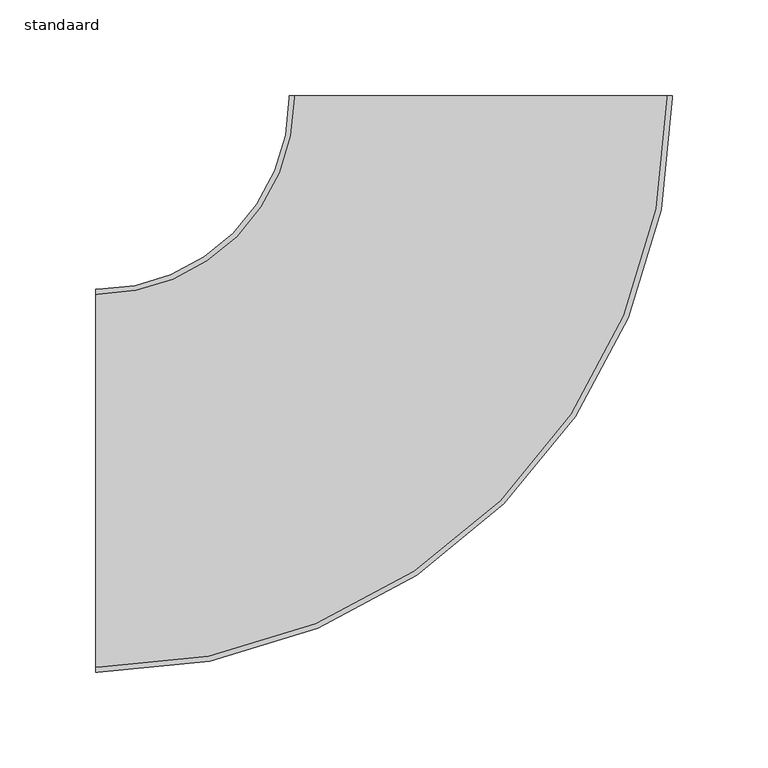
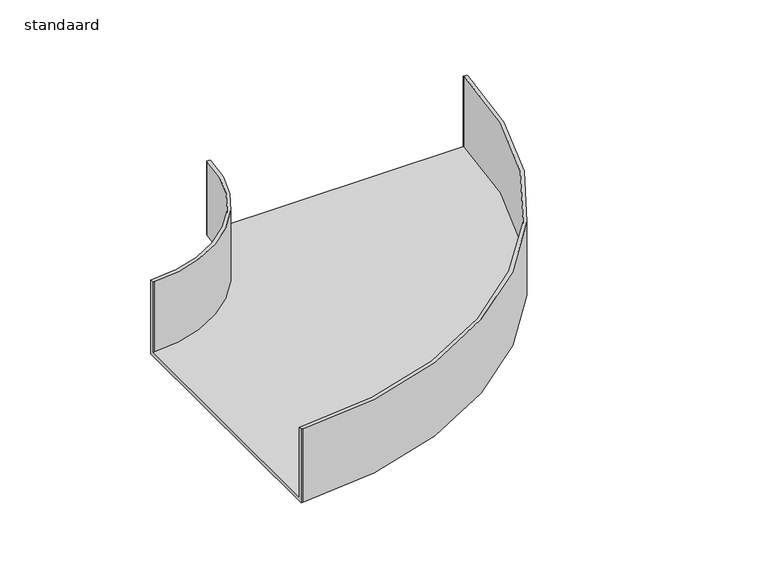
"""IFC4 building model written with IfcOpenShell, lengths in millimetres: cable carrier fitting geometry, AI_Raccord cdc_Coude horizontal rayon court : standaard."""

import ifcopenshell
import ifcopenshell.guid

model = None  # the IFC model being written
_history = None  # IfcOwnerHistory: only IFC2X3 demands one
_inside = {}  # id of a spatial element -> (the spatial element, [elements in it])
_under = {}  # id of a project, library or spatial element -> (it, [spatial elements below it])
_declared = {}  # id of a project -> (the project, [libraries it declares])
_typed = {}  # id of a type object -> (the type object, [elements of that type])
_made_of = {}  # id of a material, layer set ... -> (it, [elements and type objects made of it])


def new_model(schema):
    """Start an empty IFC model of exactly this schema.

    Asked for "IFC4X3", IfcOpenShell would pick the latest addendum, in which some entities
    have other attributes; the version numbers below select the first issue.
    IFC2X3 requires an IfcOwnerHistory on every rooted entity: one is made here for all.
    """
    global model, _history
    if schema == "IFC4X3":
        model = ifcopenshell.file(schema_version=(4, 3, 0, 0))
    else:
        model = ifcopenshell.file(schema=schema)
    _inside.clear()
    _under.clear()
    _declared.clear()
    _typed.clear()
    _made_of.clear()
    _history = None
    if model.schema == "IFC2X3":
        org = make("IfcOrganization", Name="unknown")
        user = make(
            "IfcPersonAndOrganization",
            ThePerson=make("IfcPerson", FamilyName="unknown"),
            TheOrganization=org,
        )
        app = make(
            "IfcApplication",
            ApplicationDeveloper=org,
            Version="unknown",
            ApplicationFullName="unknown",
            ApplicationIdentifier="unknown",
        )
        _history = make(
            "IfcOwnerHistory",
            OwningUser=user,
            OwningApplication=app,
            ChangeAction="ADDED",
            CreationDate=0,
        )
    return model


def make(cls, **values):
    """One entity of the class cls with the attributes given. An attribute that is None is left unset."""
    return model.create_entity(
        cls, **{name: value for name, value in values.items() if value is not None}
    )


def rooted(cls, **values):
    """An entity with a GlobalId (a new one), such as an element, a storey or a relation."""
    return make(cls, GlobalId=ifcopenshell.guid.new(), OwnerHistory=_history, **values)


def si_unit(unit_type, name, prefix=None):
    """IfcSIUnit, for example si_unit("LENGTHUNIT", "METRE", prefix="MILLI")."""
    return make("IfcSIUnit", UnitType=unit_type, Prefix=prefix, Name=name)


def assignment(units):
    """IfcUnitAssignment: the units of a project."""
    return None if units is None else make("IfcUnitAssignment", Units=units)


def point(xyz):
    """IfcCartesianPoint."""
    return None if xyz is None else make("IfcCartesianPoint", Coordinates=xyz)


def direction(xyz):
    """IfcDirection."""
    return None if xyz is None else make("IfcDirection", DirectionRatios=xyz)


def frame(location, z_axis=None, x_axis=None):
    """IfcAxis2Placement3D, a coordinate frame: its origin and axes. An axis left out is left unset."""
    return make(
        "IfcAxis2Placement3D",
        Location=point(location),
        Axis=direction(z_axis),
        RefDirection=direction(x_axis),
    )


def origin():
    """The frame at (0, 0, 0) with its axes left unset."""
    return frame((0.0, 0.0, 0.0))


def place(relative_to, where):
    """IfcLocalPlacement: puts the frame where relative to a parent placement (None: the world)."""
    return make(
        "IfcLocalPlacement", PlacementRelTo=relative_to, RelativePlacement=where
    )


def context(
    kind, dimensions, precision=None, world=None, true_north=None, identifier=None
):
    """IfcGeometricRepresentationContext, for example the 3D "Model" context."""
    return make(
        "IfcGeometricRepresentationContext",
        ContextIdentifier=identifier,
        ContextType=kind,
        CoordinateSpaceDimension=dimensions,
        Precision=precision,
        WorldCoordinateSystem=world,
        TrueNorth=true_north,
    )


def project(units=None, contexts=None):
    """IfcProject with its units and contexts."""
    return rooted(
        "IfcProject",
        Name="project",
        RepresentationContexts=contexts,
        UnitsInContext=assignment(units),
    )


def spatial(cls, under=None, at=None, **own):
    """A site, building, storey or space (cls), placed at a placement, below another one or the project."""
    s = rooted(cls, ObjectPlacement=at, **own)
    if under is not None:
        _under.setdefault(under.id(), (under, []))[1].append(s)
    return s


def polyline(points):
    """IfcPolyline through the points."""
    return make("IfcPolyline", Points=[point(p) for p in points])


def circle_curve(where, radius):
    """IfcCircle in the frame where."""
    return make("IfcCircle", Position=where, Radius=radius)


def shape(context_of_items, identifier, shape_type, items):
    """IfcShapeRepresentation: the items that make up one representation, for example the "Body"."""
    return make(
        "IfcShapeRepresentation",
        ContextOfItems=context_of_items,
        RepresentationIdentifier=identifier,
        RepresentationType=shape_type,
        Items=items,
    )


def source(mapping_origin, context_of_items, identifier, shape_type, items):
    """IfcRepresentationMap: a shape defined once, which mapped items show again and again."""
    return make(
        "IfcRepresentationMap",
        MappingOrigin=mapping_origin,
        MappedRepresentation=shape(context_of_items, identifier, shape_type, items),
    )


def transform(
    local_origin,
    x_axis=None,
    y_axis=None,
    z_axis=None,
    scale=None,
    scale2=None,
    scale3=None,
    uniform=True,
):
    """IfcCartesianTransformationOperator3D, or its non-uniform kind. x_axis, y_axis, z_axis: its Axis1, 2, 3."""
    if uniform:
        return make(
            "IfcCartesianTransformationOperator3D",
            Axis1=direction(x_axis),
            Axis2=direction(y_axis),
            LocalOrigin=point(local_origin),
            Scale=scale,
            Axis3=direction(z_axis),
        )
    return make(
        "IfcCartesianTransformationOperator3DnonUniform",
        Axis1=direction(x_axis),
        Axis2=direction(y_axis),
        LocalOrigin=point(local_origin),
        Scale=scale,
        Axis3=direction(z_axis),
        Scale2=scale2,
        Scale3=scale3,
    )


def mapped(mapping_source, mapping_target):
    """IfcMappedItem: shows the shape of a source again, moved by a transform."""
    return make(
        "IfcMappedItem", MappingSource=mapping_source, MappingTarget=mapping_target
    )


def made_of(thing, what):
    """Note that an element or type object is made of a material, layer set ...; save() writes the relation."""
    if what is not None:
        _made_of.setdefault(what.id(), (what, []))[1].append(thing)
    return thing


def element(
    cls,
    number,
    at=None,
    inside=None,
    cuts=None,
    type_object=None,
    material=None,
    context=None,
    identifier="Body",
    shape_type=None,
    held_by="IfcProductDefinitionShape",
    body=None,
    shapes=None,
    **own,
):
    """One element of the class cls, such as IfcWall. Its Tag is "e" and its number.

    at: its placement. inside: the storey or other place that contains it. cuts: it is an
    opening in that element (IfcRelVoidsElement). A single representation is given by context,
    identifier, shape_type and body (its items); several are given by shapes. held_by: the class
    of the entity that holds the representations. save() writes the other relations.
    """
    e = rooted(cls, Tag="e%d" % number, ObjectPlacement=at, **own)
    if body is not None:
        shapes = [shape(context, identifier, shape_type, body)]
    if shapes is not None:
        e.Representation = make(held_by, Representations=shapes)
    if inside is not None:
        _inside.setdefault(inside.id(), (inside, []))[1].append(e)
    if cuts is not None:
        rooted(
            "IfcRelVoidsElement", RelatingBuildingElement=cuts, RelatedOpeningElement=e
        )
    if type_object is not None:
        _typed.setdefault(type_object.id(), (type_object, []))[1].append(e)
    return made_of(e, material)


def aggregate(whole, parts):
    """IfcRelAggregates: a whole, such as a stair, and the parts it consists of."""
    return rooted("IfcRelAggregates", RelatingObject=whole, RelatedObjects=parts)


def save(model, path):
    """Write the relations noted so far, then the file.

    IfcRelAggregates (storeys below a building ...), IfcRelContainedInSpatialStructure (elements
    in a storey), IfcRelDefinesByType, IfcRelAssociatesMaterial and IfcRelDeclares: one each for
    every whole, place, type object, material and project.
    """
    for whole, parts in _under.values():
        aggregate(whole, parts)
    for where, things in _inside.values():
        rooted(
            "IfcRelContainedInSpatialStructure",
            RelatedElements=things,
            RelatingStructure=where,
        )
    for kind, things in _typed.values():
        rooted("IfcRelDefinesByType", RelatedObjects=things, RelatingType=kind)
    for what, things in _made_of.values():
        rooted("IfcRelAssociatesMaterial", RelatedObjects=things, RelatingMaterial=what)
    for by, libraries in _declared.values():
        rooted("IfcRelDeclares", RelatingContext=by, RelatedDefinitions=libraries)
    model.write(path)


def plane_surface(at):
    """IfcPlane: the flat surface through the origin of the frame at, square to its z axis."""
    return make("IfcPlane", Position=at)


def cylinder_surface(at, radius):
    """IfcCylindricalSurface: all points at the distance radius from the z axis of the frame at."""
    return make("IfcCylindricalSurface", Position=at, Radius=radius)


def revolved_surface(curve, axis_point, axis_direction):
    """IfcSurfaceOfRevolution: the curve turned about the line through axis_point along axis_direction."""
    return make(
        "IfcSurfaceOfRevolution",
        SweptCurve=make("IfcArbitraryOpenProfileDef", ProfileType="CURVE", Curve=curve),
        AxisPosition=make("IfcAxis1Placement", Location=point(axis_point), Axis=direction(axis_direction)),
    )


def advanced_brep(points, edges, surfaces, faces):
    """IfcAdvancedBrep: a solid bounded by faces that lie on surfaces and meet in shared edges.

    An edge is (start, end): straight between two places in points (the first is 0);
    or (start, end, curve); or (start, end, curve, False) where it runs against its curve.
    A face is (place in surfaces, loops), or (place, loops, False) where it looks against
    its surface's normal. A loop lists edges by number (the first is 1), with a minus sign
    where the edge is run from its end to its start. The first loop is the outer one.
    """
    corners = [point(p) for p in points]
    vertices = [make("IfcVertexPoint", VertexGeometry=c) for c in corners]
    made = []
    for start, end, *more in edges:
        made.append(
            make(
                "IfcEdgeCurve",
                EdgeStart=vertices[start],
                EdgeEnd=vertices[end],
                EdgeGeometry=more[0] if more else make("IfcPolyline", Points=[corners[start], corners[end]]),
                SameSense=more[1] if len(more) > 1 else True,
            )
        )
    hull = []
    for where, loops, *sense in faces:
        bounds = []
        for j, loop in enumerate(loops):
            ring = [make("IfcOrientedEdge", EdgeElement=made[abs(k) - 1], Orientation=k > 0) for k in loop]
            bounds.append(
                make(
                    "IfcFaceOuterBound" if j == 0 else "IfcFaceBound",
                    Bound=make("IfcEdgeLoop", EdgeList=ring),
                    Orientation=True,
                )
            )
        hull.append(make("IfcAdvancedFace", Bounds=bounds, FaceSurface=surfaces[where], SameSense=sense[0] if sense else True))
    return make("IfcAdvancedBrep", Outer=make("IfcClosedShell", CfsFaces=hull))


def standaard_8c2b1447(model_context):
    return source(origin(), model_context, "Body", "AdvancedBrep", [
        advanced_brep(
        [(-201.0, -100.0, -30.0), (-201.0, -100.0, 30.0), (-201.0, -97.46, 30.0), (-201.0, -97.46, -27.46), (-201.0, 97.46, -27.46), (-201.0, 97.46, 30.0), (-201.0, 100.0, 30.0), (-201.0, 100.0, -30.0), (100.0, 201.0, -30.0), (-100.0, 201.0, -30.0), (-100.0, 201.0, 30.0), (-97.46, 201.0, 30.0), (-97.46, 201.0, -27.46), (97.46, 201.0, -27.46), (97.46, 201.0, 30.0), (100.0, 201.0, 30.0), (-200.0, -100.0, -30.0), (-200.0, -100.0, 30.0), (100.0, 200.0, 30.0), (97.46, 200.0, 30.0), (-200.0, -97.46, 30.0), (-200.0, -97.46, -27.46), (97.46, 200.0, -27.46), (-97.46, 200.0, -27.46), (-200.0, 97.46, -27.46), (-200.0, 97.46, 30.0), (-97.46, 200.0, 30.0), (-100.0, 200.0, 30.0), (-200.0, 100.0, 30.0), (-200.0, 100.0, -30.0), (-100.0, 200.0, -30.0), (100.0, 200.0, -30.0)],
        [
            (0, 1),
            (1, 2),
            (2, 3),
            (3, 4),
            (4, 5),
            (5, 6),
            (6, 7),
            (7, 0),
            (8, 9),
            (9, 10),
            (10, 11),
            (11, 12),
            (12, 13),
            (13, 14),
            (14, 15),
            (15, 8),
            (0, 16),
            (16, 17),
            (17, 1),
            (17, 18, circle_curve(frame((-200.0, 200.0, 30.0), z_axis=(0.0, 0.0, 1.0), x_axis=(0.0, -1.0, 0.0)), 300.0)),
            (18, 15),
            (14, 19),
            (19, 20, circle_curve(frame((-200.0, 200.0, 30.0), z_axis=(0.0, 0.0, -1.0), x_axis=(0.0, -1.0, 0.0)), 297.46)),
            (20, 2),
            (20, 21),
            (21, 3),
            (21, 22, circle_curve(frame((-200.0, 200.0, -27.46), z_axis=(0.0, 0.0, 1.0), x_axis=(0.0, -1.0, 0.0)), 297.46)),
            (22, 13),
            (12, 23),
            (23, 24, circle_curve(frame((-200.0, 200.0, -27.46), z_axis=(0.0, 0.0, -1.0), x_axis=(0.0, -1.0, 0.0)), 102.54)),
            (24, 4),
            (24, 25),
            (25, 5),
            (25, 26, circle_curve(frame((-200.0, 200.0, 30.0), z_axis=(0.0, 0.0, 1.0), x_axis=(0.0, -1.0, 0.0)), 102.54)),
            (26, 11),
            (10, 27),
            (27, 28, circle_curve(frame((-200.0, 200.0, 30.0), z_axis=(0.0, 0.0, -1.0), x_axis=(0.0, -1.0, 0.0)), 100.0)),
            (28, 6),
            (28, 29),
            (29, 7),
            (29, 30, circle_curve(frame((-200.0, 200.0, -30.0), z_axis=(0.0, 0.0, 1.0), x_axis=(0.0, -1.0, 0.0)), 100.0)),
            (30, 9),
            (8, 31),
            (31, 16, circle_curve(frame((-200.0, 200.0, -30.0), z_axis=(0.0, 0.0, -1.0), x_axis=(0.0, -1.0, 0.0)), 300.0)),
            (31, 18),
            (19, 22),
            (23, 26),
            (27, 30),
        ],
        [
            plane_surface(frame((-201.0, 0.0, 0.0), z_axis=(-1.0, -4.894051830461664e-12, 0.0), x_axis=(0.0, 0.0, 1.0))),
            plane_surface(frame((0.0, 201.0, 0.0), z_axis=(0.0, 1.0, 0.0), x_axis=(0.0, 0.0, 1.0))),
            plane_surface(frame((-201.0, -100.0, -30.0), z_axis=(4.889821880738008e-12, -1.0, 0.0), x_axis=(1.0, 4.889821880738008e-12, 0.0))),
            plane_surface(frame((-201.0, -100.0, 30.0), z_axis=(0.0, 0.0, 1.0), x_axis=(1.0, 4.889821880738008e-12, 0.0))),
            plane_surface(frame((-201.0, -97.46, 30.0), z_axis=(-4.906741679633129e-12, 1.0, 0.0), x_axis=(1.0, 4.906741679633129e-12, 0.0))),
            plane_surface(frame((-201.0, -97.46, -27.46), z_axis=(0.0, 0.0, 1.0), x_axis=(1.0, 4.889821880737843e-12, 0.0))),
            plane_surface(frame((-201.0, 97.46, -27.46), z_axis=(4.889821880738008e-12, -1.0, 0.0), x_axis=(1.0, 4.889821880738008e-12, 0.0))),
            plane_surface(frame((-201.0, 97.46, 30.0), z_axis=(0.0, 0.0, 1.0), x_axis=(1.0, 4.889821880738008e-12, 0.0))),
            plane_surface(frame((-201.0, 100.0, 30.0), z_axis=(-4.889821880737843e-12, 1.0, 0.0), x_axis=(1.0, 4.889821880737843e-12, 0.0))),
            plane_surface(frame((-201.0, 100.0, -30.0), z_axis=(0.0, 0.0, -1.0), x_axis=(1.0, 4.889821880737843e-12, 0.0))),
            cylinder_surface(frame((-200.0, 200.0, 0.0), z_axis=(0.0, 0.0, 1.0), x_axis=(0.0, -1.0, 0.0)), 300.0),
            revolved_surface(polyline([(-200.0, -97.45999999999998, 30.0), (-200.0, -97.45999999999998, -27.46)]), (-200.0, 200.0, 0.0), (0.0, 0.0, 1.0)),
            cylinder_surface(frame((-200.0, 200.0, 0.0), z_axis=(0.0, 0.0, 1.0), x_axis=(0.0, -1.0, 0.0)), 102.54),
            revolved_surface(polyline([(-200.0, 100.0, 30.0), (-200.0, 100.0, -30.0)]), (-200.0, 200.0, 0.0), (0.0, 0.0, 1.0)),
            plane_surface(frame((100.0, 200.0, -30.0), z_axis=(1.0, 0.0, 0.0), x_axis=(0.0, 1.0, 0.0))),
            plane_surface(frame((97.46, 200.0, 30.0), z_axis=(-1.0, 0.0, 0.0), x_axis=(0.0, 1.0, 0.0))),
            plane_surface(frame((-97.46, 200.0, -27.46), z_axis=(1.0, 0.0, 0.0), x_axis=(0.0, 1.0, 0.0))),
            plane_surface(frame((-100.0, 200.0, 30.0), z_axis=(-1.0, 0.0, 0.0), x_axis=(0.0, 1.0, 0.0))),
        ],
        [
            (0, [[1, 2, 3, 4, 5, 6, 7, 8]]),
            (1, [[9, 10, 11, 12, 13, 14, 15, 16]]),
            (2, [[-1, 17, 18, 19]]),
            (3, [[-2, -19, 20, 21, -15, 22, 23, 24]]),
            (4, [[-3, -24, 25, 26]]),
            (5, [[-4, -26, 27, 28, -13, 29, 30, 31]]),
            (6, [[-5, -31, 32, 33]]),
            (7, [[-6, -33, 34, 35, -11, 36, 37, 38]]),
            (8, [[-7, -38, 39, 40]]),
            (9, [[-8, -40, 41, 42, -9, 43, 44, -17]]),
            (10, [[-20, -18, -44, 45]]),
            (11, [[-27, -25, -23, 46]]),
            (12, [[-34, -32, -30, 47]]),
            (13, [[-41, -39, -37, 48]]),
            (14, [[-45, -43, -16, -21]]),
            (15, [[-46, -22, -14, -28]]),
            (16, [[-47, -29, -12, -35]]),
            (17, [[-48, -36, -10, -42]]),
        ],
    ),
    ])


if __name__ == "__main__":
    model = new_model("IFC4")
    model_context = context("Model", 3, world=origin())
    ifc_project = project(units=[si_unit("LENGTHUNIT", "METRE", prefix="MILLI")], contexts=[model_context])
    site = spatial("IfcSite", under=ifc_project)
    building = spatial("IfcBuilding", under=site)
    placement = place(None, origin())
    standaard_shape = standaard_8c2b1447(model_context)
    element("IfcCableCarrierFitting", 1, ObjectType="AI_Raccord cdc_Coude horizontal rayon court : standaard", at=placement, inside=building, context=model_context, shape_type="MappedRepresentation", body=[
        mapped(standaard_shape, transform((0.0, 0.0, 0.0), x_axis=(1.0, 0.0, 0.0), y_axis=(0.0, 1.0, 0.0), z_axis=(0.0, 0.0, 1.0))),
    ])
    save(model, "model.ifc")
